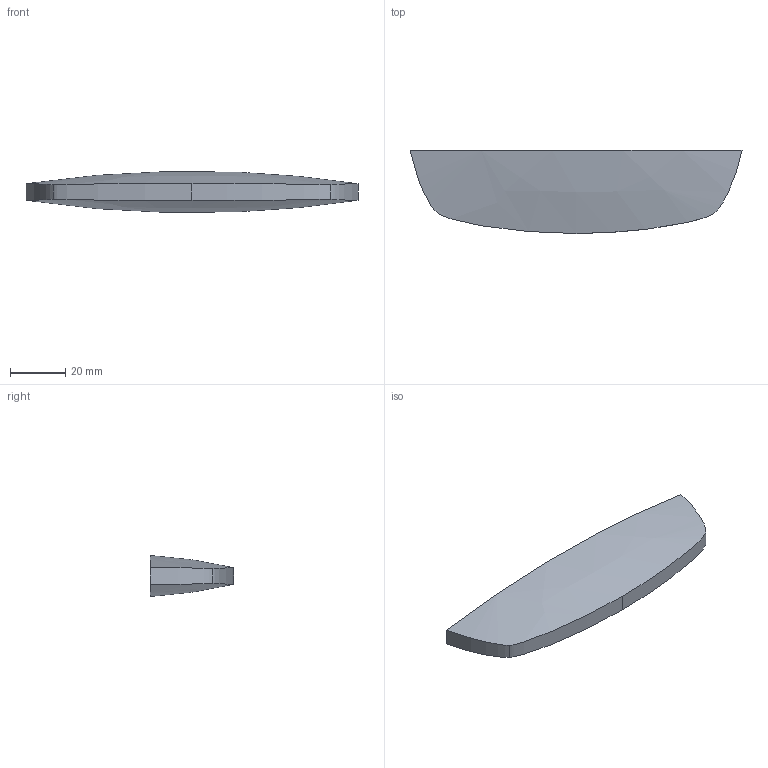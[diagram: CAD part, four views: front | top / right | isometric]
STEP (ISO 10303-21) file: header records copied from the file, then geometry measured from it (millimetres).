
FILE_DESCRIPTION(('Open CASCADE Model'),'2;1');
FILE_NAME('Open CASCADE Shape Model','2026-10-14T14:25:17',('Author'),( 'Open CASCADE'),'Open CASCADE STEP processor 7.8','Open CASCADE 7.8' ,'Unknown');
FILE_SCHEMA(('AUTOMOTIVE_DESIGN { 1 0 10303 214 1 1 1 1 }'));
Length unit declared in the file: millimetre
Products named in the file (1): Open CASCADE STEP translator 7.8 4
Bounding box: 120 x 30 x 14.82 mm (x, y, z)
Volume: 30059 mm3; surface area: 8534.8 mm2
Topology: 1 solids, 1 shells, 7 faces, 15 edges, 10 vertices
Faces by surface type: bspline 7
Entity records: 2055 total; most frequent: CARTESIAN_POINT 1835, B_SPLINE_CURVE_WITH_KNOTS 45, ORIENTED_EDGE 30, PCURVE 30, DEFINITIONAL_REPRESENTATION 30, EDGE_CURVE 15, SURFACE_CURVE 15, VERTEX_POINT 10
